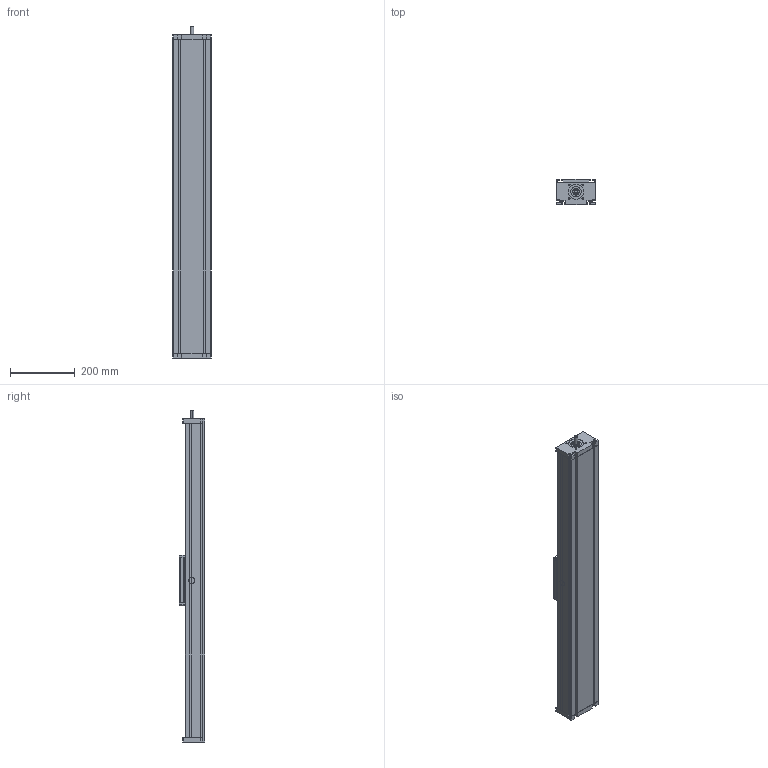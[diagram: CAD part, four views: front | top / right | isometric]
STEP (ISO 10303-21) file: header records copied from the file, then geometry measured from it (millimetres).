
FILE_DESCRIPTION (( 'STEP AP214' ), '1' );
FILE_NAME ('DLT(K)120.STEP', '2022-06-29T10:07:53', ( '' ), ( '' ), 'SwSTEP 2.0', 'SolidWorks 2020', '' );
FILE_SCHEMA (( 'AUTOMOTIVE_DESIGN' ));
Length unit declared in the file: millimetre
Products named in the file (5): carriage^DLT(K)120_carriage version 0; bearing block^DLT(K)120_shaft; bearing block^DLT(K)120_cap; profile^DLT(K)120_standard; DLT(K)120
Assembly tree (4 placements, depth 2):
  DLT(K)120
    profile^DLT(K)120_standard
    carriage^DLT(K)120_carriage version 0
    bearing block^DLT(K)120_shaft
    bearing block^DLT(K)120_cap
Bounding box: 120.2 x 79 x 1027 mm (x, y, z)
Volume: 3960891.1 mm3; surface area: 1268726.7 mm2
Topology: 13 solids, 14 shells, 415 faces, 1123 edges, 734 vertices
Faces by surface type: plane 290, cylinder 110, bspline 8, cone 7
Entity records: 13984 total; most frequent: CARTESIAN_POINT 2722, ORIENTED_EDGE 2230, DIRECTION 2126, EDGE_CURVE 1115, LINE 878, VECTOR 878, VERTEX_POINT 734, AXIS2_PLACEMENT_3D 624
